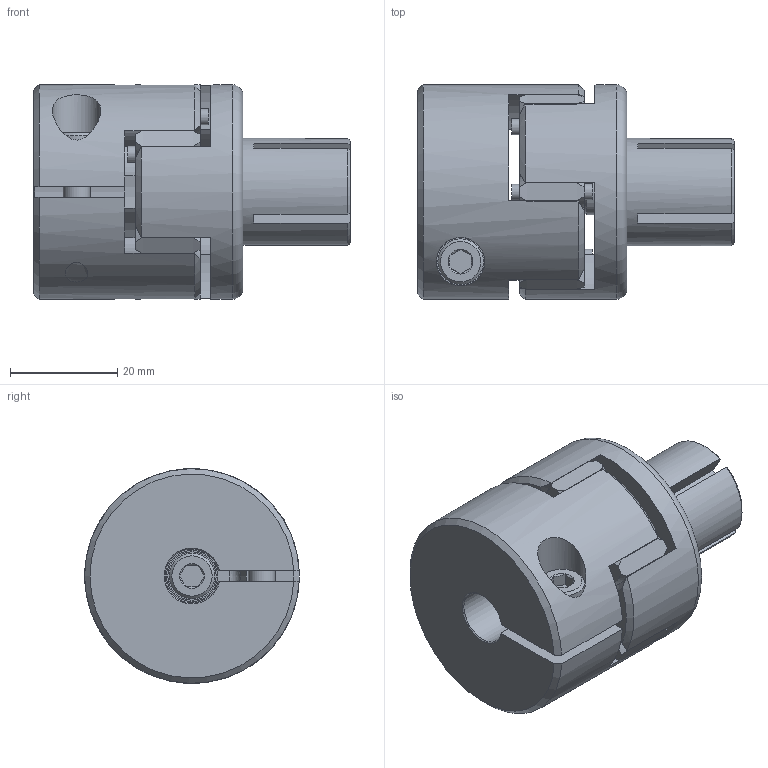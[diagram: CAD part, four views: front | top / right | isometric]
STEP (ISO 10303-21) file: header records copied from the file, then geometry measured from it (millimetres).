
FILE_DESCRIPTION(/* description */ ('STEP AP214'),/* implementation_level */ '2;1');
FILE_NAME(/* name */ 'EKS 15 - D1=10 D2=20',/* time_stamp */ '2026-10-28T12:28:50+01:00',/* author */ ('License CC BY-ND 4.0'),/* organization */ ('CADENAS'),/* preprocessor_version */ 'ST-DEVELOPER v20',/* originating_system */ 'PARTsolutions',/* authorisation */ ' ');
FILE_SCHEMA (('AUTOMOTIVE_DESIGN {1 0 10303 214 3 1 1}'));
Length unit declared in the file: millimetre
Products named in the file (6): EKS 15 - D1=10 D2=20; EKS 15 - D1=10_1_part1; 15; EKS 15 - D2=20_part2; Cylinder screw ISO 4762 M5x20; Cylinder screw ISO 4762 M5x16
Assembly tree (5 placements, depth 2):
  EKS 15 - D1=10 D2=20
    EKS 15 - D1=10_1_part1
    15
    EKS 15 - D2=20_part2
    Cylinder screw ISO 4762 M5x20
    Cylinder screw ISO 4762 M5x16
Bounding box: 59 x 40 x 40 mm (x, y, z)
Volume: 45018.3 mm3; surface area: 19448.5 mm2
Topology: 5 solids, 5 shells, 223 faces, 535 edges, 332 vertices
Faces by surface type: cone 86, cylinder 67, plane 63, torus 7
Full cylindrical faces by diameter (mm): 3 x6, 4.2 x2, 5 x2, 5.4 x2, 8.5 x2, 9 x2, 9.5 x2, 18 x2, 20 x1, 40 x1
Entity records: 7048 total; most frequent: CARTESIAN_POINT 1431, DIRECTION 1088, ORIENTED_EDGE 980, EDGE_CURVE 490, AXIS2_PLACEMENT_3D 484, VERTEX_POINT 328, EDGE_LOOP 288, FACE_BOUND 288
